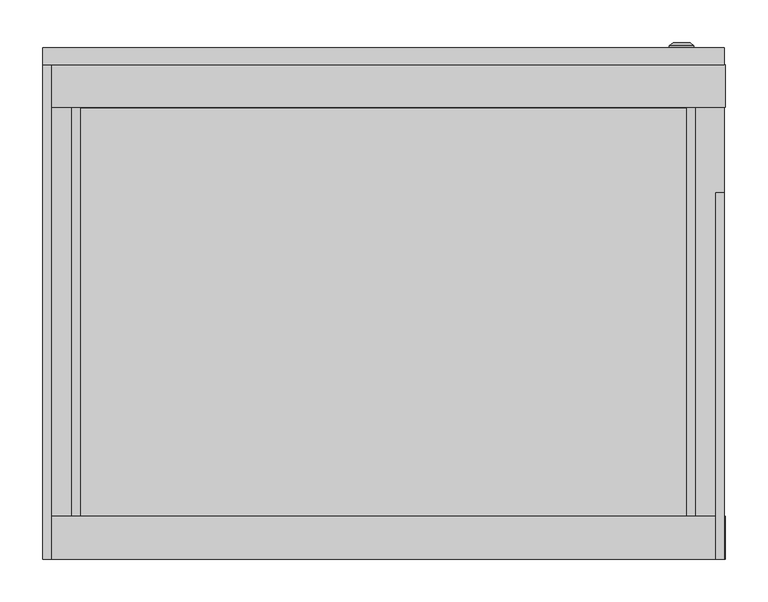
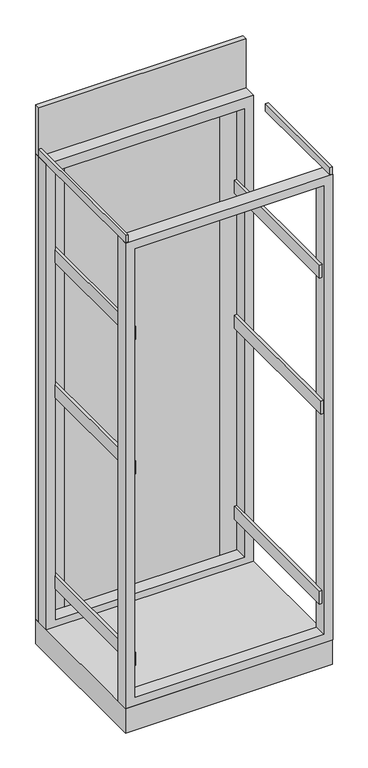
"""IFC4 building model written with IfcOpenShell, lengths in millimetres: proxy geometry, ЩО-70 : ЩО-70_2200х800х600 в обрешетке."""

from ifc_helpers import new_model, si_unit, frame, origin, origin_with_axes, place, context, project, spatial, polyline, circle_curve, outline, extrude, source, transform, mapped, element, save
from ifc_brep_helpers import plane_surface, cylinder_surface, revolved_surface, advanced_brep


def electrical_equipment_641f8d47(model_context):
    return source(origin(), model_context, "Body", "SolidModel", [
        advanced_brep(
        [(335.669873, 600.0, 515.0), (364.330127, 600.0, 515.0), (350.0, 600.0, 515.0), (335.669873, 602.366592, 515.0), (364.330127, 602.366592, 515.0), (340.0, 606.0, 515.0), (360.0, 606.0, 515.0), (348.1080471, 606.0, 515.0), (351.8919529, 606.0, 515.0), (348.1080471, 604.9822294, 515.0), (351.8919529, 604.9822294, 515.0), (350.0, 604.9822294, 515.0)],
        [
            (0, 1, circle_curve(frame((350.0, 600.0, 515.0), z_axis=(0.0, -1.0, 0.0), x_axis=(1.0, 0.0, 0.0)), 14.330127)),
            (1, 2),
            (2, 0),
            (1, 0, circle_curve(frame((350.0, 600.0, 515.0), z_axis=(0.0, -1.0, 0.0), x_axis=(1.0, 0.0, 0.0)), 14.330127)),
            (3, 4, circle_curve(frame((350.0, 602.366592, 515.0), z_axis=(0.0, -1.0, 0.0), x_axis=(1.0, 0.0, 0.0)), 14.330127)),
            (4, 1),
            (0, 3),
            (4, 3, circle_curve(frame((350.0, 602.366592, 515.0), z_axis=(0.0, -1.0, 0.0), x_axis=(1.0, 0.0, 0.0)), 14.330127)),
            (5, 6, circle_curve(frame((350.0, 606.0, 515.0), z_axis=(0.0, -1.0, 0.0), x_axis=(1.0, 0.0, 0.0)), 10.0)),
            (6, 4),
            (3, 5),
            (6, 5, circle_curve(frame((350.0, 606.0, 515.0), z_axis=(0.0, -1.0, 0.0), x_axis=(1.0, 0.0, 0.0)), 10.0)),
            (7, 8, circle_curve(frame((350.0, 606.0, 515.0), z_axis=(0.0, -1.0, 0.0), x_axis=(1.0, 0.0, 0.0)), 1.8919529)),
            (8, 6),
            (5, 7),
            (8, 7, circle_curve(frame((350.0, 606.0, 515.0), z_axis=(0.0, -1.0, 0.0), x_axis=(1.0, 0.0, 0.0)), 1.8919529)),
            (9, 10, circle_curve(frame((350.0, 604.9822294, 515.0), z_axis=(0.0, -1.0, 0.0), x_axis=(1.0, 0.0, 0.0)), 1.8919529)),
            (10, 8),
            (7, 9),
            (10, 9, circle_curve(frame((350.0, 604.9822294, 515.0), z_axis=(0.0, -1.0, 0.0), x_axis=(1.0, 0.0, 0.0)), 1.8919529)),
            (11, 10),
            (9, 11),
        ],
        [
            plane_surface(frame((350.0, 600.0, 515.0), z_axis=(0.0, -1.0, 0.0), x_axis=(1.0, 0.0, 0.0))),
            cylinder_surface(frame((350.0, 613.1348851, 515.0), z_axis=(0.0, 1.0, 0.0), x_axis=(1.0, 0.0, 0.0)), 14.330127),
            revolved_surface(polyline([(364.330127, 602.366592, 515.0), (360.0, 606.0, 515.0)]), (350.0, 613.1348851, 515.0), (0.0, 1.0, 0.0)),
            plane_surface(frame((350.0, 606.0, 515.0), z_axis=(0.0, 1.0, 0.0), x_axis=(1.0, 0.0, 0.0))),
            revolved_surface(polyline([(351.8919529, 606.0, 515.0), (351.8919529, 604.9822294, 515.0)]), (350.0, 613.1348851, 515.0), (0.0, 1.0, 0.0)),
            plane_surface(frame((350.0, 604.9822294, 515.0), z_axis=(0.0, 1.0, 0.0), x_axis=(1.0, 0.0, 0.0))),
        ],
        [
            (0, [[1, 2, 3]]),
            (0, [[4, -3, -2]]),
            (1, [[5, 6, -1, 7]]),
            (1, [[8, -7, -4, -6]]),
            (2, [[9, 10, -5, 11]]),
            (2, [[12, -11, -8, -10]]),
            (3, [[13, 14, -9, 15]]),
            (3, [[16, -15, -12, -14]]),
            (4, [[17, 18, -13, 19]]),
            (4, [[20, -19, -16, -18]]),
            (5, [[21, -17, 22]]),
            (5, [[-22, -20, -21]]),
        ],
    ),
        advanced_brep(
        [(335.669873, 600.0, 1485.0), (364.330127, 600.0, 1485.0), (350.0, 600.0, 1485.0), (335.669873, 602.366592, 1485.0), (364.330127, 602.366592, 1485.0), (340.0, 606.0, 1485.0), (360.0, 606.0, 1485.0), (348.1080471, 606.0, 1485.0), (351.8919529, 606.0, 1485.0), (348.1080471, 604.9822294, 1485.0), (351.8919529, 604.9822294, 1485.0), (350.0, 604.9822294, 1485.0)],
        [
            (0, 1, circle_curve(frame((350.0, 600.0, 1485.0), z_axis=(0.0, -1.0, 0.0), x_axis=(1.0, 0.0, 0.0)), 14.330127)),
            (1, 2),
            (2, 0),
            (1, 0, circle_curve(frame((350.0, 600.0, 1485.0), z_axis=(0.0, -1.0, 0.0), x_axis=(1.0, 0.0, 0.0)), 14.330127)),
            (3, 4, circle_curve(frame((350.0, 602.366592, 1485.0), z_axis=(0.0, -1.0, 0.0), x_axis=(1.0, 0.0, 0.0)), 14.330127)),
            (4, 1),
            (0, 3),
            (4, 3, circle_curve(frame((350.0, 602.366592, 1485.0), z_axis=(0.0, -1.0, 0.0), x_axis=(1.0, 0.0, 0.0)), 14.330127)),
            (5, 6, circle_curve(frame((350.0, 606.0, 1485.0), z_axis=(0.0, -1.0, 0.0), x_axis=(1.0, 0.0, 0.0)), 10.0)),
            (6, 4),
            (3, 5),
            (6, 5, circle_curve(frame((350.0, 606.0, 1485.0), z_axis=(0.0, -1.0, 0.0), x_axis=(1.0, 0.0, 0.0)), 10.0)),
            (7, 8, circle_curve(frame((350.0, 606.0, 1485.0), z_axis=(0.0, -1.0, 0.0), x_axis=(1.0, 0.0, 0.0)), 1.8919529)),
            (8, 6),
            (5, 7),
            (8, 7, circle_curve(frame((350.0, 606.0, 1485.0), z_axis=(0.0, -1.0, 0.0), x_axis=(1.0, 0.0, 0.0)), 1.8919529)),
            (9, 10, circle_curve(frame((350.0, 604.9822294, 1485.0), z_axis=(0.0, -1.0, 0.0), x_axis=(1.0, 0.0, 0.0)), 1.8919529)),
            (10, 8),
            (7, 9),
            (10, 9, circle_curve(frame((350.0, 604.9822294, 1485.0), z_axis=(0.0, -1.0, 0.0), x_axis=(1.0, 0.0, 0.0)), 1.8919529)),
            (11, 10),
            (9, 11),
        ],
        [
            plane_surface(frame((350.0, 600.0, 1485.0), z_axis=(0.0, -1.0, 0.0), x_axis=(1.0, 0.0, 0.0))),
            cylinder_surface(frame((350.0, 613.1348851, 1485.0), z_axis=(0.0, 1.0, 0.0), x_axis=(1.0, 0.0, 0.0)), 14.330127),
            revolved_surface(polyline([(364.330127, 602.366592, 1485.0), (360.0, 606.0, 1485.0)]), (350.0, 613.1348851, 1485.0), (0.0, 1.0, 0.0)),
            plane_surface(frame((350.0, 606.0, 1485.0), z_axis=(0.0, 1.0, 0.0), x_axis=(1.0, 0.0, 0.0))),
            revolved_surface(polyline([(351.8919529, 606.0, 1485.0), (351.8919529, 604.9822294, 1485.0)]), (350.0, 613.1348851, 1485.0), (0.0, 1.0, 0.0)),
            plane_surface(frame((350.0, 604.9822294, 1485.0), z_axis=(0.0, 1.0, 0.0), x_axis=(1.0, 0.0, 0.0))),
        ],
        [
            (0, [[1, 2, 3]]),
            (0, [[4, -3, -2]]),
            (1, [[5, 6, -1, 7]]),
            (1, [[8, -7, -4, -6]]),
            (2, [[9, 10, -5, 11]]),
            (2, [[12, -11, -8, -10]]),
            (3, [[13, 14, -9, 15]]),
            (3, [[16, -15, -12, -14]]),
            (4, [[17, 18, -13, 19]]),
            (4, [[20, -19, -16, -18]]),
            (5, [[21, -17, 22]]),
            (5, [[-22, -20, -21]]),
        ],
    ),
        extrude(outline(polyline([(299.0, 580.0), (-299.0, 580.0), (-299.0, 600.0), (299.0, 600.0), (299.0, 580.0)])), frame((0.0, 0.0, 101.0), z_axis=(0.0, 0.0, 1.0), x_axis=(1.0, 0.0, 0.0)), (0.0, 0.0, 1.0), 1898.0),
        extrude(outline(polyline([(400.0, 0.0), (390.0, 0.0), (390.0, 430.0), (400.0, 430.0), (400.0, 0.0)])), frame((0.0, 0.0, 2000.0), z_axis=(0.0, 0.0, 1.0), x_axis=(1.0, 0.0, 0.0)), (0.0, 0.0, 1.0), 30.0),
        extrude(outline(polyline([(-390.0, 0.0), (-400.0, 0.0), (-400.0, 580.0), (-390.0, 580.0), (-390.0, 0.0)])), frame((0.0, 0.0, 2000.0), z_axis=(0.0, 0.0, 1.0), x_axis=(1.0, 0.0, 0.0)), (0.0, 0.0, 1.0), 30.0),
        extrude(outline(polyline([(400.0, 580.0), (-400.0, 580.0), (-400.0, 600.0), (400.0, 600.0), (400.0, 580.0)])), frame((0.0, 0.0, 2000.0), z_axis=(0.0, 0.0, 1.0), x_axis=(1.0, 0.0, 0.0)), (0.0, 0.0, 1.0), 200.0),
        extrude(outline(polyline([(365.8707865, 10.0), (355.8707865, 10.0), (355.8707865, 600.0), (365.8707865, 600.0), (365.8707865, 10.0)])), frame((0.0, 0.0, 1585.5966059), z_axis=(0.0, 0.0, 1.0), x_axis=(1.0, 0.0, 0.0)), (0.0, 0.0, 1.0), 53.0898876),
        extrude(outline(polyline([(-355.8707865, 10.0), (-365.8707865, 10.0), (-365.8707865, 600.0), (-355.8707865, 600.0), (-355.8707865, 10.0)])), frame((0.0, 0.0, 1585.5966059), z_axis=(0.0, 0.0, 1.0), x_axis=(1.0, 0.0, 0.0)), (0.0, 0.0, 1.0), 53.0898876),
        extrude(outline(polyline([(-355.8707865, 10.0), (-365.8707865, 10.0), (-365.8707865, 580.0), (-355.8707865, 580.0), (-355.8707865, 10.0)])), frame((0.0, 0.0, 255.5966059), z_axis=(0.0, 0.0, 1.0), x_axis=(1.0, 0.0, 0.0)), (0.0, 0.0, 1.0), 53.0898876),
        extrude(outline(polyline([(365.8707865, 10.0), (355.8707865, 10.0), (355.8707865, 580.0), (365.8707865, 580.0), (365.8707865, 10.0)])), frame((0.0, 0.0, 255.5966059), z_axis=(0.0, 0.0, 1.0), x_axis=(1.0, 0.0, 0.0)), (0.0, 0.0, 1.0), 53.0898876),
        extrude(outline(polyline([(-355.8707865, 10.0), (-365.8707865, 10.0), (-365.8707865, 580.0), (-355.8707865, 580.0), (-355.8707865, 10.0)])), frame((0.0, 0.0, 1035.5966059), z_axis=(0.0, 0.0, 1.0), x_axis=(1.0, 0.0, 0.0)), (0.0, 0.0, 1.0), 53.0898876),
        extrude(outline(polyline([(365.8707865, 0.0), (355.8707865, 0.0), (355.8707865, 580.0), (365.8707865, 580.0), (365.8707865, 0.0)])), frame((0.0, 0.0, 1035.5966059), z_axis=(0.0, 0.0, 1.0), x_axis=(1.0, 0.0, 0.0)), (0.0, 0.0, 1.0), 53.0898876),
        extrude(outline(polyline([(1999.1471543, -400.0), (100.0, -400.0), (100.0, 401.2640449), (1999.1471543, 401.2640449), (1999.1471543, -400.0)]), holes=[polyline([(134.1190645, 365.8707865), (134.1190645, -363.3426966), (1963.7538959, -363.3426966), (1963.7538959, 365.8707865), (134.1190645, 365.8707865)])]), frame((0.0, 0.0, 0.0), z_axis=(0.0, 1.0, 0.0), x_axis=(0.0, 0.0, 1.0)), (0.0, 0.0, 1.0), 50.0),
        extrude(outline(polyline([(2000.0, -400.0), (100.0, -400.0), (100.0, 401.2640449), (2000.0, 401.2640449), (2000.0, -400.0)]), holes=[polyline([(128.351328, 365.8707865), (128.351328, -363.3426966), (1957.9861595, -363.3426966), (1957.9861595, 365.8707865), (128.351328, 365.8707865)])]), frame((0.0, 530.0, 0.0), z_axis=(0.0, 1.0, 0.0), x_axis=(0.0, 0.0, 1.0)), (0.0, 0.0, 1.0), 50.0),
        extrude(outline(polyline([(400.0067809, 600.0), (400.0067809, 0.0), (-400.0, 0.0), (-400.0, 600.0), (400.0067809, 600.0)])), origin_with_axes(), (0.0, 0.0, 1.0), 100.0),
        extrude(outline(polyline([(400.0, 580.0), (300.0, 580.0), (300.0, 600.0), (400.0, 600.0), (400.0, 580.0)])), frame((0.0, 0.0, 100.0), z_axis=(0.0, 0.0, 1.0), x_axis=(1.0, 0.0, 0.0)), (0.0, 0.0, 1.0), 1900.0),
        extrude(outline(polyline([(-300.0, 580.0), (-400.0, 580.0), (-400.0, 600.0), (-300.0, 600.0), (-300.0, 580.0)])), frame((0.0, 0.0, 100.0), z_axis=(0.0, 0.0, 1.0), x_axis=(1.0, 0.0, 0.0)), (0.0, 0.0, 1.0), 1900.0),
    ])


if __name__ == "__main__":
    model = new_model("IFC4")
    model_context = context("Model", 3, world=origin())
    ifc_project = project(units=[si_unit("LENGTHUNIT", "METRE", prefix="MILLI")], contexts=[model_context])
    site = spatial("IfcSite", under=ifc_project)
    building = spatial("IfcBuilding", under=site)
    placement = place(None, origin())
    electrical_equipment_shape = electrical_equipment_641f8d47(model_context)
    element("IfcBuildingElementProxy", 1, Name="ЩО-70 : ЩО-70_2200х800х600 в обрешетке", ObjectType="ЩО-70 : ЩО-70_2200х800х600 в обрешетке", at=placement, inside=building, context=model_context, shape_type="MappedRepresentation", body=[
        mapped(electrical_equipment_shape, transform((0.0, 0.0, 0.0), x_axis=(1.0, 0.0, 0.0), y_axis=(0.0, 1.0, 0.0), z_axis=(0.0, 0.0, 1.0))),
    ])
    save(model, "model.ifc")
